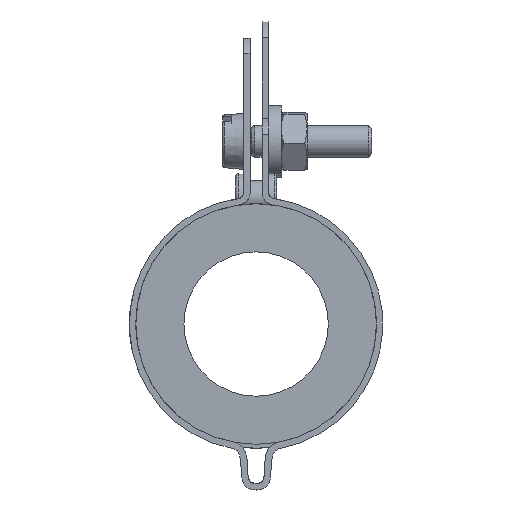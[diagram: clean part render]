
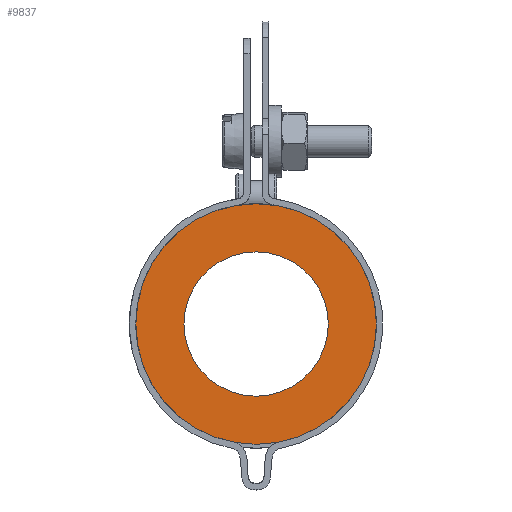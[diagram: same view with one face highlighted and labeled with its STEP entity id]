
A CAD part, front view. The second image highlights one B-rep face of the part: STEP entity #9837.
In plain terms, the highlighted planar face has unit normal (0, -1, 0).
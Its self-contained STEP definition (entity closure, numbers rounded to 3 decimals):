
#1957=FACE_BOUND($,#2603,.T.);
#1958=FACE_BOUND($,#2604,.T.);
#2603=EDGE_LOOP($,(#6856));
#2604=EDGE_LOOP($,(#6857));
#3392=CIRCLE($,#10678,9.);
#3393=CIRCLE($,#10679,15.);
#4221=VERTEX_POINT($,#16542);
#4222=VERTEX_POINT($,#16544);
#5253=EDGE_CURVE($,#4221,#4221,#3392,.T.);
#5254=EDGE_CURVE($,#4222,#4222,#3393,.T.);
#6856=ORIENTED_EDGE($,*,*,#5253,.T.);
#6857=ORIENTED_EDGE($,*,*,#5254,.T.);
#8922=PLANE($,#10677);
#9837=ADVANCED_FACE($,(#1957,#1958),#8922,.T.);
#10677=AXIS2_PLACEMENT_3D($,#16541,#12393,#12394);
#10678=AXIS2_PLACEMENT_3D($,#16543,#12395,#12396);
#10679=AXIS2_PLACEMENT_3D($,#16545,#12397,#12398);
#12393=DIRECTION('center_axis',(0.,-1.,0.));
#12394=DIRECTION('ref_axis',(0.,0.,-1.));
#12395=DIRECTION('center_axis',(0.,1.,0.));
#12396=DIRECTION('ref_axis',(1.,0.,0.));
#12397=DIRECTION('center_axis',(0.,-1.,0.));
#12398=DIRECTION('ref_axis',(1.,0.,0.));
#16541=CARTESIAN_POINT('Origin',(21.645,46.577,19.693));
#16542=CARTESIAN_POINT('',(12.645,46.577,19.693));
#16543=CARTESIAN_POINT('Origin',(21.645,46.577,19.693));
#16544=CARTESIAN_POINT('',(6.645,46.577,19.693));
#16545=CARTESIAN_POINT('Origin',(21.645,46.577,19.693));
